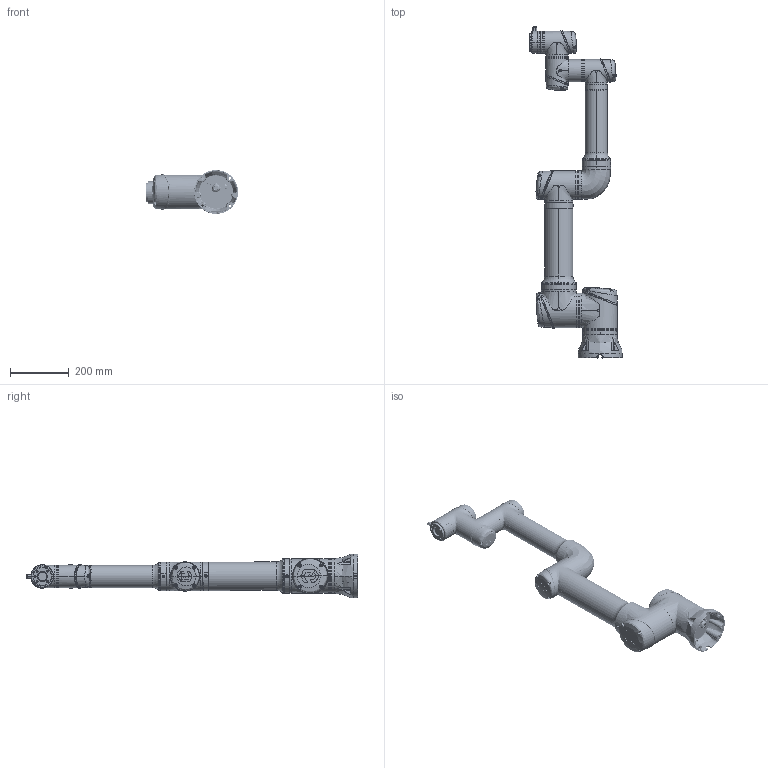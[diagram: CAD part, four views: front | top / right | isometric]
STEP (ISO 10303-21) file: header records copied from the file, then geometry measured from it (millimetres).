
FILE_DESCRIPTION (( 'STEP AP214' ), '1' );
FILE_NAME ('CS66-Ex迍雄耀倰.STEP', '2023-10-09T02:03:56', ( '' ), ( '' ), 'SwSTEP 2.0', 'SolidWorks 2017', '' );
FILE_SCHEMA (( 'AUTOMOTIVE_DESIGN' ));
Length unit declared in the file: millimetre
Products named in the file (11): CS20蟀裝踢扽遠; CS66-Ex迍雄耀倰; CS66-Ex-Flange; CS66-Ex-J2_Link1_J3; CS66-Ex-J1; CS66-Ex-Base; CS66-Ex-J5; CS66-Ex-Link2A_Link2B_J4; CS25蟀裝踢扽遠; CS66-Ex-J6; CS14蟀裝踢扽遠
Assembly tree (15 placements, depth 2):
  CS66-Ex迍雄耀倰
    CS66-Ex-J1
    CS66-Ex-J2_Link1_J3
    CS66-Ex-J5
    CS66-Ex-J6
    CS66-Ex-Link2A_Link2B_J4
    CS66-Ex-Base
    CS66-Ex-Flange
    CS25蟀裝踢扽遠  x2
    CS20蟀裝踢扽遠  x4
    CS14蟀裝踢扽遠  x2
Bounding box: 314.49 x 1132.1 x 149.51 mm (x, y, z)
Volume: 4908137.9 mm3; surface area: 966312.8 mm2
Topology: 52 solids, 102 shells, 5948 faces, 15018 edges, 9156 vertices
Faces by surface type: bspline 2469, plane 1560, cylinder 1042, cone 620, sphere 141, torus 116
Entity records: 755519 total; most frequent: CARTESIAN_POINT 607317, ORIENTED_EDGE 27918, DIRECTION 16993, EDGE_CURVE 13965, VERTEX_POINT 8633, AXIS2_PLACEMENT_3D 6958, B_SPLINE_CURVE_WITH_KNOTS 6535, EDGE_LOOP 5889
